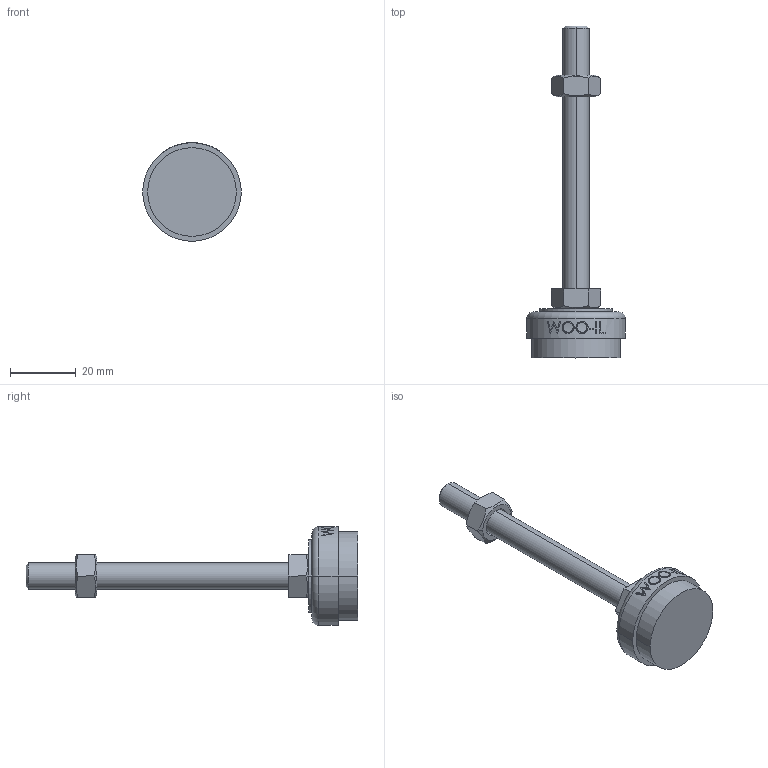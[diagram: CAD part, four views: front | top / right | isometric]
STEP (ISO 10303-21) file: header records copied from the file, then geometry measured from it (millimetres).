
FILE_DESCRIPTION (( 'STEP AP214' ), '1' );
FILE_NAME ('NS30-M8-80.step', '2021-01-11T05:41:51', ( '' ), ( '' ), 'SwSTEP 2.0', 'SolidWorks 2019', '' );
FILE_SCHEMA (( 'AUTOMOTIVE_DESIGN' ));
Length unit declared in the file: millimetre
Products named in the file (2): NS30-M8-80
Bounding box: 30 x 101 x 30 mm (x, y, z)
Volume: 14873.4 mm3; surface area: 5827.3 mm2
Topology: 3 solids, 3 shells, 96 faces, 223 edges, 144 vertices
Faces by surface type: plane 48, cylinder 18, bspline 16, cone 12, torus 2
Entity records: 4114 total; most frequent: CARTESIAN_POINT 1989, ORIENTED_EDGE 446, DIRECTION 381, EDGE_CURVE 223, VERTEX_POINT 144, AXIS2_PLACEMENT_3D 142, EDGE_LOOP 109, LINE 97
